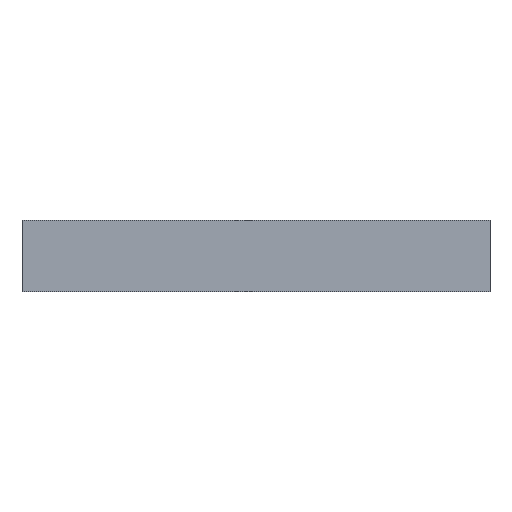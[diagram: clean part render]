
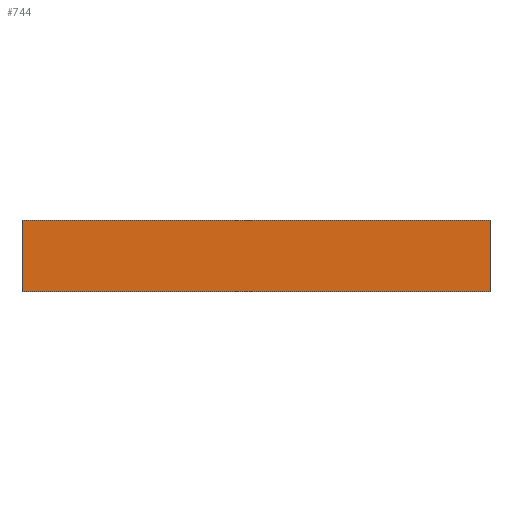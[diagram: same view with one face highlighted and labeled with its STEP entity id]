
A CAD part, front view. The second image highlights one B-rep face of the part: STEP entity #744.
In plain terms, the highlighted planar face has unit normal (0, -1, 0).
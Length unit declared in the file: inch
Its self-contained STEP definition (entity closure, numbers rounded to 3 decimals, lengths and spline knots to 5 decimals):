
#38 = EDGE_LOOP ( 'NONE', ( #58, #106, #85, #114 ) ) ;
#58 = ORIENTED_EDGE ( 'NONE', *, *, #689, .T. ) ;
#85 = ORIENTED_EDGE ( 'NONE', *, *, #690, .F. ) ;
#106 = ORIENTED_EDGE ( 'NONE', *, *, #641, .F. ) ;
#114 = ORIENTED_EDGE ( 'NONE', *, *, #666, .T. ) ;
#125 = VERTEX_POINT ( 'NONE', #359 ) ;
#163 = VERTEX_POINT ( 'NONE', #360 ) ;
#177 = VERTEX_POINT ( 'NONE', #404 ) ;
#195 = VECTOR ( 'NONE', #392, 39.37008 ) ;
#202 = LINE ( 'NONE', #388, #195 ) ;
#223 = VERTEX_POINT ( 'NONE', #380 ) ;
#234 = LINE ( 'NONE', #455, #235 ) ;
#235 = VECTOR ( 'NONE', #469, 39.37008 ) ;
#271 = LINE ( 'NONE', #505, #276 ) ;
#276 = VECTOR ( 'NONE', #524, 39.37008 ) ;
#312 = FACE_OUTER_BOUND ( 'NONE', #38, .T. ) ;
#325 = LINE ( 'NONE', #521, #332 ) ;
#332 = VECTOR ( 'NONE', #504, 39.37008 ) ;
#359 = CARTESIAN_POINT ( 'NONE',  ( 2.25, 0., 0.345 ) ) ;
#360 = CARTESIAN_POINT ( 'NONE',  ( 2.25, 0., 0. ) ) ;
#380 = CARTESIAN_POINT ( 'NONE',  ( 0., 0., 0.345 ) ) ;
#388 = CARTESIAN_POINT ( 'NONE',  ( 2.25, 0., 0.345 ) ) ;
#392 = DIRECTION ( 'NONE',  ( 0., 0., -1. ) ) ;
#404 = CARTESIAN_POINT ( 'NONE',  ( 0., 0., 0. ) ) ;
#455 = CARTESIAN_POINT ( 'NONE',  ( 0., 0., 0.345 ) ) ;
#469 = DIRECTION ( 'NONE',  ( 0., 0., -1. ) ) ;
#504 = DIRECTION ( 'NONE',  ( 1., 0., 0. ) ) ;
#505 = CARTESIAN_POINT ( 'NONE',  ( 0., 0., 0. ) ) ;
#516 = PLANE ( 'NONE',  #708 ) ;
#521 = CARTESIAN_POINT ( 'NONE',  ( 0., 0., 0.345 ) ) ;
#524 = DIRECTION ( 'NONE',  ( 1., 0., 0. ) ) ;
#546 = DIRECTION ( 'NONE',  ( 0., 1., 0. ) ) ;
#581 = DIRECTION ( 'NONE',  ( 0., 0., 1. ) ) ;
#583 = CARTESIAN_POINT ( 'NONE',  ( 0., 0., 0.345 ) ) ;
#641 = EDGE_CURVE ( 'NONE', #125, #163, #202, .T. ) ;
#666 = EDGE_CURVE ( 'NONE', #223, #177, #234, .T. ) ;
#689 = EDGE_CURVE ( 'NONE', #177, #163, #271, .T. ) ;
#690 = EDGE_CURVE ( 'NONE', #223, #125, #325, .T. ) ;
#708 = AXIS2_PLACEMENT_3D ( 'NONE', #583, #546, #581 ) ;
#744 = ADVANCED_FACE ( 'NONE', ( #312 ), #516, .F. ) ;
